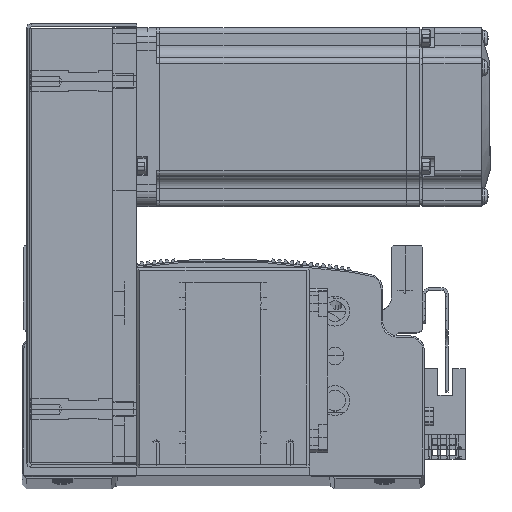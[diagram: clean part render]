
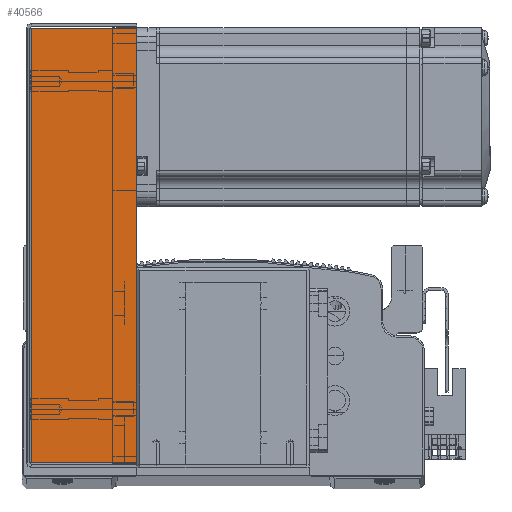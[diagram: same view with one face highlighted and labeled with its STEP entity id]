
A CAD part, top view. The second image highlights one B-rep face of the part: STEP entity #40566.
In plain terms, the highlighted planar face has unit normal (0, 0, 1).
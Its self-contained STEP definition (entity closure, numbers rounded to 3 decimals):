
#18017 = CARTESIAN_POINT ( 'NONE',  ( 0., 36., 34.5 ) ) ;
#18022 = DIRECTION ( 'NONE',  ( -1., 0., 0. ) ) ;
#18225 = CARTESIAN_POINT ( 'NONE',  ( 72.793, 0., 34.5 ) ) ;
#18229 = DIRECTION ( 'NONE',  ( 0., 1., 0. ) ) ;
#18282 = CARTESIAN_POINT ( 'NONE',  ( -72.793, 0., 34.5 ) ) ;
#18284 = DIRECTION ( 'NONE',  ( 0., 1., 0. ) ) ;
#19062 = DIRECTION ( 'NONE',  ( -1., 0., 0. ) ) ;
#19125 = CARTESIAN_POINT ( 'NONE',  ( -74.5, 0.737, 34.5 ) ) ;
#20378 = LINE ( 'NONE', #18017, #20454 ) ;
#20454 = VECTOR ( 'NONE', #18022, 1000. ) ;
#20499 = VECTOR ( 'NONE', #18284, 1000. ) ;
#20530 = VECTOR ( 'NONE', #18229, 1000. ) ;
#20536 = LINE ( 'NONE', #18282, #20499 ) ;
#20543 = LINE ( 'NONE', #18225, #20530 ) ;
#20782 = VECTOR ( 'NONE', #19062, 1000. ) ;
#20801 = LINE ( 'NONE', #19125, #20782 ) ;
#28626 = AXIS2_PLACEMENT_3D ( 'NONE', #72355, #72384, #72340 ) ;
#34601 = EDGE_LOOP ( 'NONE', ( #60003, #59988, #60056, #60017 ) ) ;
#40566 = ADVANCED_FACE ( 'NONE', ( #43611 ), #72337, .F. ) ;
#43611 = FACE_OUTER_BOUND ( 'NONE', #34601, .T. ) ;
#44726 = VERTEX_POINT ( 'NONE', #89558 ) ;
#44734 = VERTEX_POINT ( 'NONE', #89586 ) ;
#44752 = VERTEX_POINT ( 'NONE', #89550 ) ;
#44753 = VERTEX_POINT ( 'NONE', #89552 ) ;
#56953 = EDGE_CURVE ( 'NONE', #44726, #44753, #20378, .T. ) ;
#56989 = EDGE_CURVE ( 'NONE', #44752, #44726, #20543, .T. ) ;
#56993 = EDGE_CURVE ( 'NONE', #44734, #44753, #20536, .T. ) ;
#57059 = EDGE_CURVE ( 'NONE', #44752, #44734, #20801, .T. ) ;
#59988 = ORIENTED_EDGE ( 'NONE', *, *, #56989, .T. ) ;
#60003 = ORIENTED_EDGE ( 'NONE', *, *, #57059, .F. ) ;
#60017 = ORIENTED_EDGE ( 'NONE', *, *, #56993, .F. ) ;
#60056 = ORIENTED_EDGE ( 'NONE', *, *, #56953, .T. ) ;
#72337 = PLANE ( 'NONE',  #28626 ) ;
#72340 = DIRECTION ( 'NONE',  ( -1., 0., 0. ) ) ;
#72355 = CARTESIAN_POINT ( 'NONE',  ( 0., 0., 34.5 ) ) ;
#72384 = DIRECTION ( 'NONE',  ( 0., 0., -1. ) ) ;
#89550 = CARTESIAN_POINT ( 'NONE',  ( 72.793, 0.737, 34.5 ) ) ;
#89552 = CARTESIAN_POINT ( 'NONE',  ( -72.793, 36., 34.5 ) ) ;
#89558 = CARTESIAN_POINT ( 'NONE',  ( 72.793, 36., 34.5 ) ) ;
#89586 = CARTESIAN_POINT ( 'NONE',  ( -72.793, 0.737, 34.5 ) ) ;
